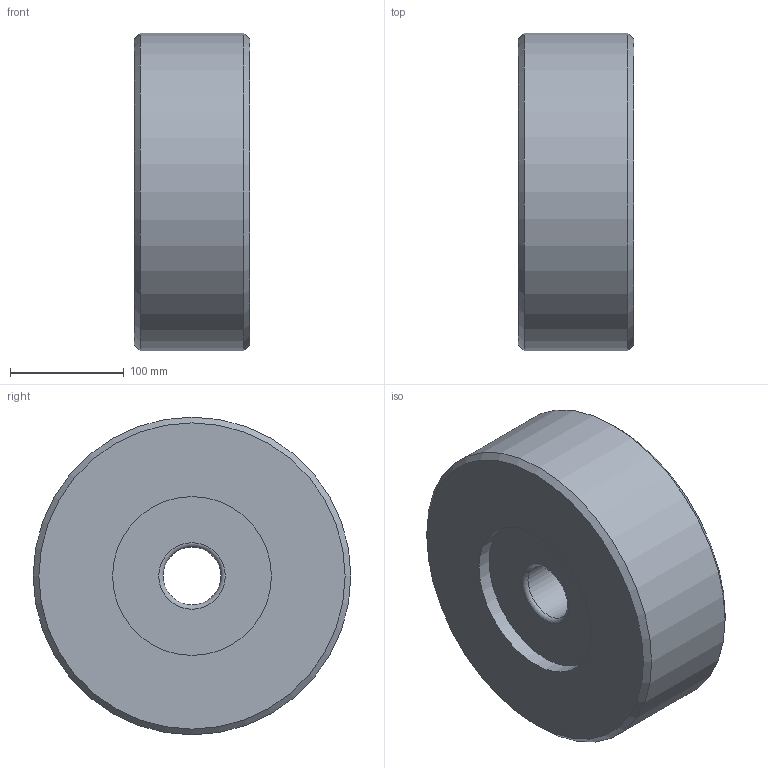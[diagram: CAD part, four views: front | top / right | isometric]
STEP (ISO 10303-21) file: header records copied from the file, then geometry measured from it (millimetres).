
FILE_DESCRIPTION((''),'1');
FILE_NAME('H:/図庫/国内ﾕﾆｯﾄ/ｶﾀﾛｸﾞ/樹脂巻き/ホームページ用ＣＡＤ図面/update用/3D/', '2017-07-13T02:40:53',(''), (''), 'KCM Version 1.1.1442.0', 'Kubotek KeyCreator', '');
FILE_SCHEMA(('AUTOMOTIVE_DESIGN'));
Length unit declared in the file: inch
Bounding box: 101.6 x 279.4 x 279.4 mm (x, y, z)
Surface area: 225258.3 mm2 (no closed solid volume)
Topology: 0 solids, 12 shells, 12 faces, 40 edges, 32 vertices
Faces by surface type: plane 4, cylinder 4, torus 2, cone 2
Full cylindrical faces by diameter (mm): 50.8 x1, 139.7 x2, 279.4 x1
Entity records: 476 total; most frequent: DIRECTION 92, CARTESIAN_POINT 81, ORIENTED_EDGE 48, AXIS2_PLACEMENT_3D 43, EDGE_CURVE 40, VERTEX_POINT 32, CIRCLE 30, EDGE_LOOP 16
